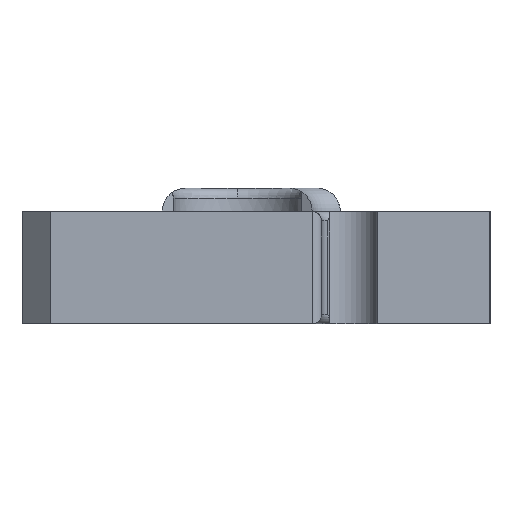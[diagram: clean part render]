
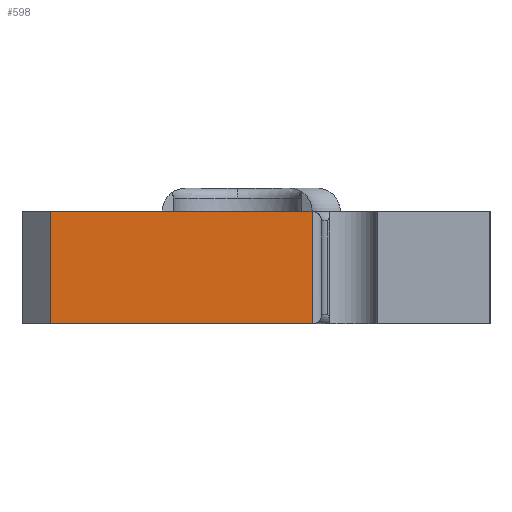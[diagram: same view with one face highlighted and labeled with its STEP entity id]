
A CAD part, left-side view. The second image highlights one B-rep face of the part: STEP entity #598.
In plain terms, the highlighted planar face has unit normal (-1, 0, 0).
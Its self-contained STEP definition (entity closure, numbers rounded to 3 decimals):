
#13 = FACE_OUTER_BOUND ( 'NONE', #8285, .T. ) ;
#74 = DIRECTION ( 'NONE',  ( 0., 0., -1. ) ) ;
#379 = CARTESIAN_POINT ( 'NONE',  ( -26., 22., -6. ) ) ;
#594 = CARTESIAN_POINT ( 'NONE',  ( -26., 22., 6. ) ) ;
#598 = ADVANCED_FACE ( 'NONE', ( #13 ), #8205, .F. ) ;
#867 = VECTOR ( 'NONE', #5741, 1000. ) ;
#1108 = EDGE_CURVE ( 'NONE', #1191, #5150, #5957, .T. ) ;
#1191 = VERTEX_POINT ( 'NONE', #379 ) ;
#1215 = CARTESIAN_POINT ( 'NONE',  ( -26., 22., -6. ) ) ;
#1244 = AXIS2_PLACEMENT_3D ( 'NONE', #7061, #1886, #7754 ) ;
#1281 = CARTESIAN_POINT ( 'NONE',  ( -26., -6., -6. ) ) ;
#1446 = VECTOR ( 'NONE', #74, 1000. ) ;
#1504 = ORIENTED_EDGE ( 'NONE', *, *, #2741, .F. ) ;
#1552 = CARTESIAN_POINT ( 'NONE',  ( -26., -6., 6. ) ) ;
#1886 = DIRECTION ( 'NONE',  ( 1., 0., 0. ) ) ;
#2005 = VERTEX_POINT ( 'NONE', #594 ) ;
#2029 = VECTOR ( 'NONE', #5878, 1000. ) ;
#2741 = EDGE_CURVE ( 'NONE', #2005, #5722, #4751, .T. ) ;
#3917 = VECTOR ( 'NONE', #8183, 1000. ) ;
#4751 = LINE ( 'NONE', #5733, #2029 ) ;
#4848 = CARTESIAN_POINT ( 'NONE',  ( -26., 22., 6. ) ) ;
#4993 = ORIENTED_EDGE ( 'NONE', *, *, #8846, .F. ) ;
#5048 = ORIENTED_EDGE ( 'NONE', *, *, #8252, .T. ) ;
#5150 = VERTEX_POINT ( 'NONE', #1281 ) ;
#5722 = VERTEX_POINT ( 'NONE', #1552 ) ;
#5733 = CARTESIAN_POINT ( 'NONE',  ( -26., 22., 6. ) ) ;
#5741 = DIRECTION ( 'NONE',  ( 0., 0., -1. ) ) ;
#5878 = DIRECTION ( 'NONE',  ( 0., -1., 0. ) ) ;
#5957 = LINE ( 'NONE', #1215, #3917 ) ;
#6328 = CARTESIAN_POINT ( 'NONE',  ( -26., -6., 6. ) ) ;
#6390 = LINE ( 'NONE', #4848, #867 ) ;
#7061 = CARTESIAN_POINT ( 'NONE',  ( -26., 22., 6. ) ) ;
#7671 = LINE ( 'NONE', #6328, #1446 ) ;
#7754 = DIRECTION ( 'NONE',  ( 0., 1., 0. ) ) ;
#7842 = ORIENTED_EDGE ( 'NONE', *, *, #1108, .T. ) ;
#8183 = DIRECTION ( 'NONE',  ( 0., -1., 0. ) ) ;
#8205 = PLANE ( 'NONE',  #1244 ) ;
#8252 = EDGE_CURVE ( 'NONE', #2005, #1191, #6390, .T. ) ;
#8285 = EDGE_LOOP ( 'NONE', ( #7842, #4993, #1504, #5048 ) ) ;
#8846 = EDGE_CURVE ( 'NONE', #5722, #5150, #7671, .T. ) ;
